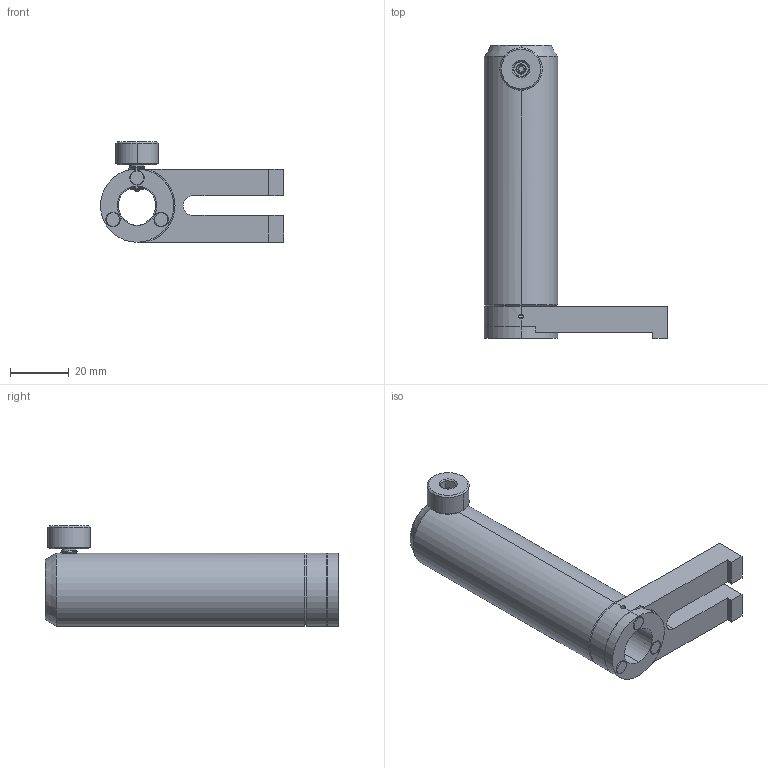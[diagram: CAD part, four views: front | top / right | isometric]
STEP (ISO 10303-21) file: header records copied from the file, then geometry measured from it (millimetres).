
FILE_DESCRIPTION((''),'2;1');
FILE_NAME('CA100-XC_ASM','2020-12-21T',('Administrator'),(''),'CREO PARAMETRIC BY PTC INC, 2015290','CREO PARAMETRIC BY PTC INC, 2015290','');
FILE_SCHEMA(('CONFIG_CONTROL_DESIGN'));
Length unit declared in the file: millimetre
Products named in the file (9): CAXX-XC_A2; CAXX-XC_A3; MAGNET_5X3; CA100-XC_A1; M6_SCREW_1; M6_SCREW_2; SPRING_3X6; M4X3_HS_2; CA100-XC_ASM
Assembly tree (10 placements, depth 2):
  CA100-XC_ASM
    CAXX-XC_A2
    CAXX-XC_A3
    MAGNET_5X3  x3
    CA100-XC_A1
    M6_SCREW_1
    M6_SCREW_2
    SPRING_3X6
    M4X3_HS_2
Bounding box: 62.5 x 100.13 x 34.29 mm (x, y, z)
Volume: 43371.2 mm3; surface area: 20281.6 mm2
Topology: 10 solids, 10 shells, 277 faces, 687 edges, 438 vertices
Faces by surface type: cylinder 122, plane 78, bspline 35, cone 28, torus 12, sphere 2
Entity records: 25530 total; most frequent: CARTESIAN_POINT 19448, ORIENTED_EDGE 1306, DIRECTION 1079, EDGE_CURVE 653, VERTEX_POINT 422, AXIS2_PLACEMENT_3D 397, EDGE_LOOP 289, VECTOR 285
